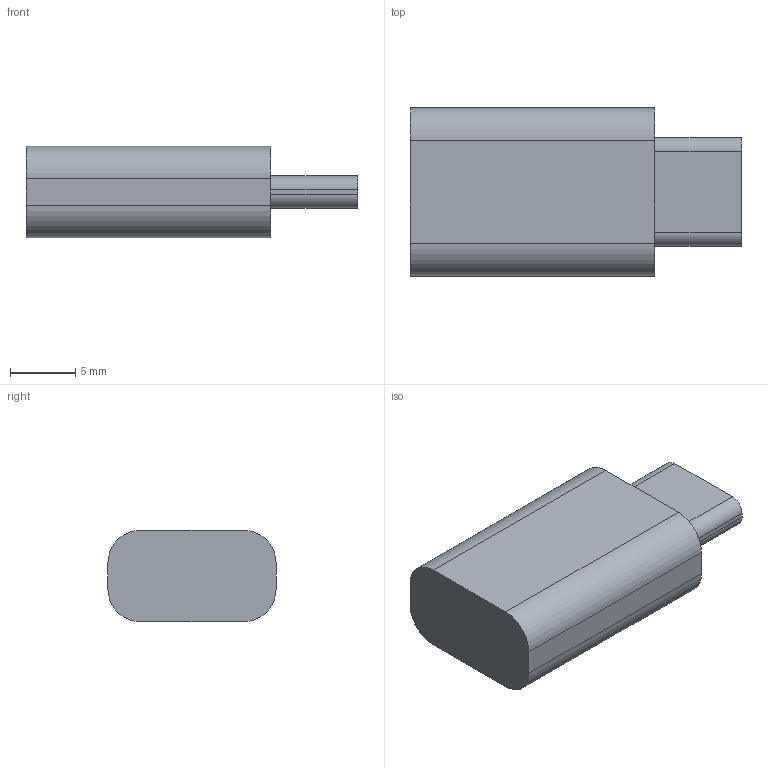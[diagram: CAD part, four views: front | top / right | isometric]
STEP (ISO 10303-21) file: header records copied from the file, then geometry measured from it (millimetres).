
FILE_DESCRIPTION(('Open CASCADE Model'),'2;1');
FILE_NAME('C27_R2_USB_C_Insertion_Gauge','2026-09-09T17:52:52',('Author' ),('Open CASCADE'),'Open CASCADE STEP processor 7.9','build123d', 'Unknown');
FILE_SCHEMA(('AUTOMOTIVE_DESIGN { 1 0 10303 214 1 1 1 1 }'));
Length unit declared in the file: millimetre
Products named in the file (1): C27_R2_USB_C_Insertion_Gauge
Bounding box: 25.32 x 12.85 x 7 mm (x, y, z)
Volume: 1604.8 mm3; surface area: 1084.5 mm2
Topology: 1 solids, 1 shells, 28 faces, 72 edges, 48 vertices
Faces by surface type: plane 16, cylinder 12
Entity records: 1877 total; most frequent: CARTESIAN_POINT 449, DIRECTION 262, LINE 156, VECTOR 156, ORIENTED_EDGE 144, PCURVE 144, DEFINITIONAL_REPRESENTATION 144, EDGE_CURVE 72
